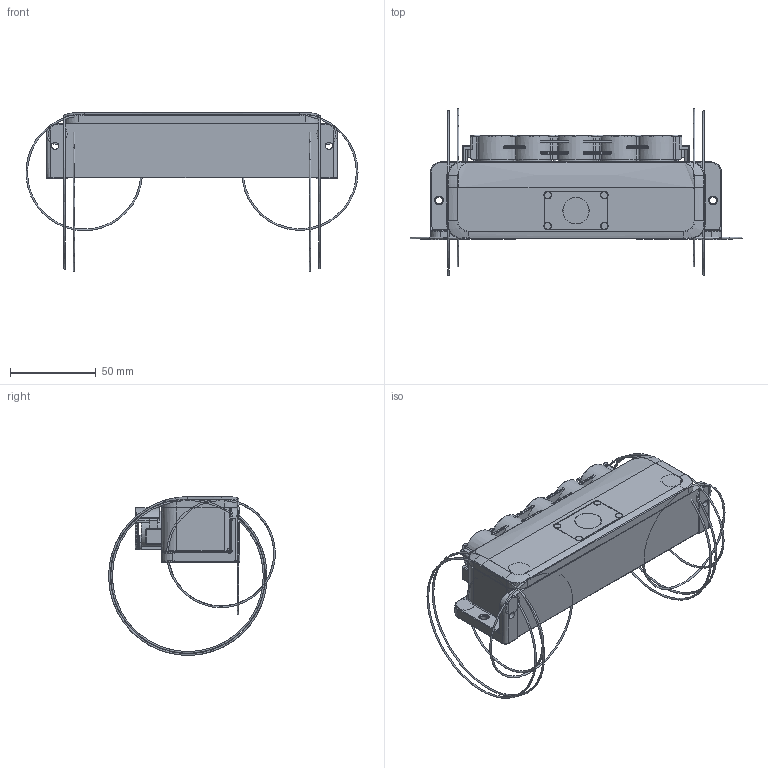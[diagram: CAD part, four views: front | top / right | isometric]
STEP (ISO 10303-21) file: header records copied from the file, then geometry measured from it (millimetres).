
FILE_DESCRIPTION((''),'2;1');
FILE_NAME('DINJIXIANQI_ASM_ASM','2016-04-29T',('user'),(''),'PRO/ENGINEER BY PARAMETRIC TECHNOLOGY CORPORATION, 2008090','PRO/ENGINEER BY PARAMETRIC TECHNOLOGY CORPORATION, 2008090','');
FILE_SCHEMA(('CONFIG_CONTROL_DESIGN'));
Products named in the file (1): DINJIXIANQI_ASM_ASM
Bounding box: 193.99 x 97.46 x 92.54 mm (x, y, z)
Surface area: 98259.1 mm2 (no closed solid volume)
Topology: 0 solids, 0 shells, 1311 faces, 7435 edges, 7329 vertices
Faces by surface type: bspline 1211, torus 91, sphere 9
Entity records: 124380 total; most frequent: CARTESIAN_POINT 60622, DIRECTION 9874, TRIMMED_CURVE 8582, VECTOR 7490, LINE 7490, DEFINITIONAL_REPRESENTATION 7242, PCURVE 7242, COMPOSITE_CURVE_SEGMENT 7242
